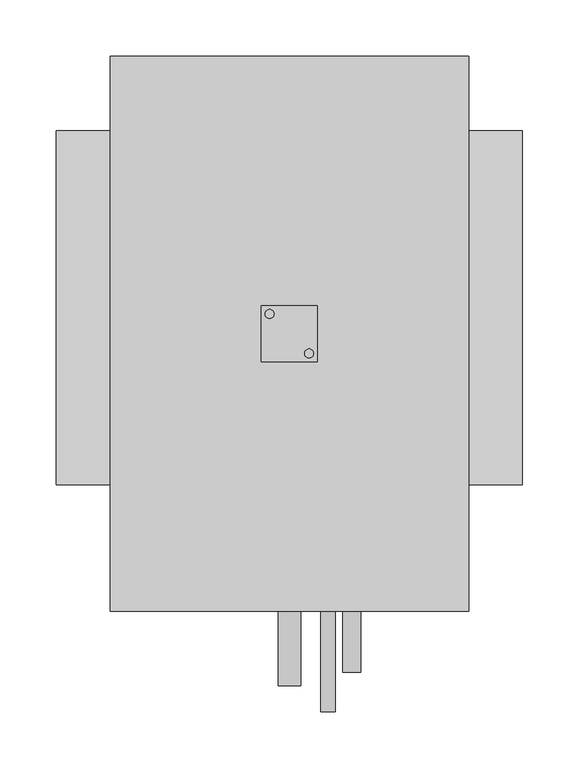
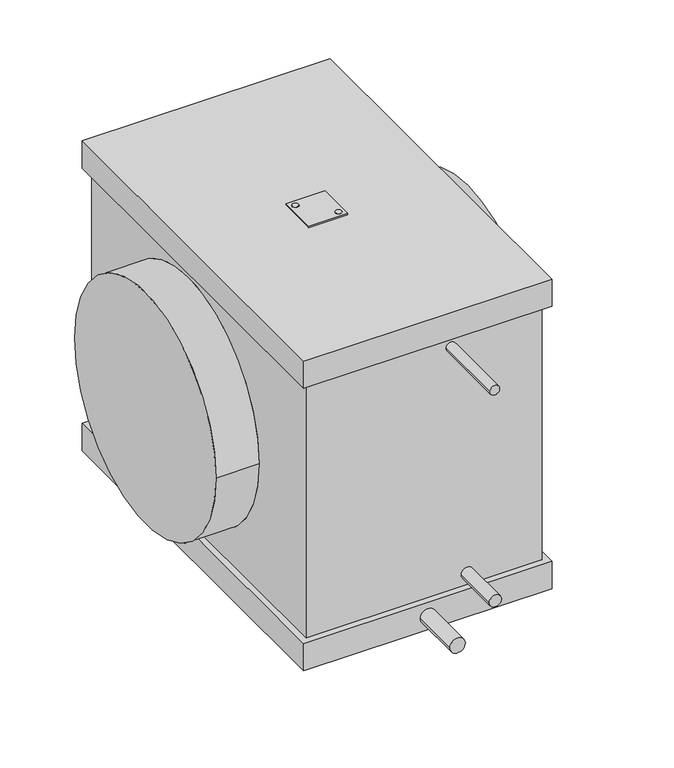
"""IFC4 building model written with IfcOpenShell, lengths in millimetres: proxy geometry, KORF_Охладитель_Фреоновый_Круглый_Левый_KFLO : KFLO 315/2."""

from ifc_helpers import new_model, si_unit, point, frame, frame_2d, origin, place, context, project, spatial, polyline, circle_curve, trimmed, segment, composite_curve, outline, extrude, source, transform, mapped, element, save
from ifc_brep_helpers import plane_surface, cylinder_surface, advanced_brep


def mechanical_equipment_fbcd34f2(model_context):
    return source(origin(), model_context, "Body", "SolidModel", [
        extrude(outline(composite_curve([segment(trimmed(circle_curve(frame_2d((189.9272934, -5.4254254)), 4.0), [point((185.9272934, -5.4254254))], [point((193.9272934, -5.4254254))], False, "CARTESIAN"), True, "CONTINUOUS"), segment(trimmed(circle_curve(frame_2d((189.9272934, -5.4254254)), 4.0), [point((193.9272934, -5.4254254))], [point((185.9272934, -5.4254254))], False, "CARTESIAN"), True, "CONTINUOUS")], self_intersect=False)), frame((0.0, 0.0, 210.5), z_axis=(0.0, 0.0, 1.0), x_axis=(1.0, 0.0, 0.0)), (0.0, 0.0, 1.0), 2.0),
        extrude(outline(composite_curve([segment(trimmed(circle_curve(frame_2d((225.0727066, -40.5745746)), 4.0), [point((229.0727066, -40.5745746))], [point((221.0727066, -40.5745746))], False, "CARTESIAN"), True, "CONTINUOUS"), segment(trimmed(circle_curve(frame_2d((225.0727066, -40.5745746)), 4.0), [point((221.0727066, -40.5745746))], [point((229.0727066, -40.5745746))], False, "CARTESIAN"), True, "CONTINUOUS")], self_intersect=False)), frame((0.0, 0.0, 210.5), z_axis=(0.0, 0.0, 1.0), x_axis=(1.0, 0.0, 0.0)), (0.0, 0.0, 1.0), 2.0),
        extrude(outline(polyline([(232.5, 2.0), (232.5, -48.0), (182.5, -48.0), (182.5, 2.0), (232.5, 2.0)]), holes=[composite_curve([segment(trimmed(circle_curve(frame_2d((189.9272934, -5.4254254)), 4.0), [point((185.9272934, -5.4254254))], [point((193.9272934, -5.4254254))], True, "CARTESIAN"), True, "CONTINUOUS"), segment(trimmed(circle_curve(frame_2d((189.9272934, -5.4254254)), 4.0), [point((193.9272934, -5.4254254))], [point((185.9272934, -5.4254254))], True, "CARTESIAN"), True, "CONTINUOUS")], self_intersect=False), composite_curve([segment(trimmed(circle_curve(frame_2d((225.0727066, -40.5745746)), 4.0), [point((229.0727066, -40.5745746))], [point((221.0727066, -40.5745746))], True, "CARTESIAN"), True, "CONTINUOUS"), segment(trimmed(circle_curve(frame_2d((225.0727066, -40.5745746)), 4.0), [point((221.0727066, -40.5745746))], [point((229.0727066, -40.5745746))], True, "CARTESIAN"), True, "CONTINUOUS")], self_intersect=False)]), frame((0.0, 0.0, 210.5), z_axis=(0.0, 0.0, 1.0), x_axis=(1.0, 0.0, 0.0)), (0.0, 0.0, 1.0), 2.0),
        advanced_brep(
        [(415.0, -157.5, 0.0), (415.0, 157.5, 0.0), (0.0, -157.5, 0.0), (0.0, 157.5, 0.0), (359.5, -157.5, 0.0), (359.5, 157.5, 0.0), (55.5, 157.5, 0.0), (55.5, -157.5, 0.0), (359.5, -261.5, -173.5), (359.5, 215.5, -173.5), (359.5, 215.5, 173.5), (359.5, -261.5, 173.5), (55.5, 215.5, -173.5), (55.5, -261.5, -173.5), (55.5, -261.5, 173.5), (55.5, 215.5, 173.5), (358.5, -261.5, -173.5), (358.5, -261.5, 173.5), (56.5, -261.5, 173.5), (56.5, -261.5, -173.5), (367.0, 224.0, -210.5), (367.0, -270.0, -210.5), (48.0, -270.0, -210.5), (48.0, 224.0, -210.5), (358.5, 215.5, -173.5), (56.5, 215.5, -173.5), (56.5, 215.5, 173.5), (358.5, 215.5, 173.5), (367.0, -270.0, 210.5), (367.0, 224.0, 210.5), (48.0, 224.0, 210.5), (48.0, -270.0, 210.5), (367.0, 224.0, -173.5), (367.0, -270.0, -173.5), (48.0, -270.0, -173.5), (48.0, 224.0, -173.5), (367.0, 224.0, 173.5), (367.0, -270.0, 173.5), (48.0, -270.0, 173.5), (48.0, 224.0, 173.5)],
        [
            (0, 1, circle_curve(frame((415.0, 0.0, 0.0), z_axis=(1.0, 0.0, 0.0), x_axis=(0.0, 1.0, 0.0)), 157.5)),
            (1, 0, circle_curve(frame((415.0, 0.0, 0.0), z_axis=(1.0, 0.0, 0.0), x_axis=(0.0, 1.0, 0.0)), 157.5)),
            (2, 3, circle_curve(frame((0.0, 0.0, 0.0), z_axis=(-1.0, 0.0, 0.0), x_axis=(0.0, 1.0, 0.0)), 157.5)),
            (3, 2, circle_curve(frame((0.0, 0.0, 0.0), z_axis=(-1.0, 0.0, 0.0), x_axis=(0.0, 1.0, 0.0)), 157.5)),
            (0, 4),
            (4, 5, circle_curve(frame((359.5, 0.0, 0.0), z_axis=(1.0, 0.0, 0.0), x_axis=(0.0, 1.0, 0.0)), 157.5)),
            (5, 1),
            (3, 6),
            (6, 7, circle_curve(frame((55.5, 0.0, 0.0), z_axis=(-1.0, 0.0, 0.0), x_axis=(0.0, 1.0, 0.0)), 157.5)),
            (7, 2),
            (5, 4, circle_curve(frame((359.5, 0.0, 0.0), z_axis=(1.0, 0.0, 0.0), x_axis=(0.0, 1.0, 0.0)), 157.5)),
            (7, 6, circle_curve(frame((55.5, 0.0, 0.0), z_axis=(-1.0, 0.0, 0.0), x_axis=(0.0, 1.0, 0.0)), 157.5)),
            (8, 9),
            (9, 10),
            (10, 11),
            (11, 8),
            (12, 13),
            (13, 14),
            (14, 15),
            (15, 12),
            (16, 8),
            (11, 17),
            (17, 18),
            (18, 14),
            (13, 19),
            (19, 16),
            (20, 21),
            (21, 22),
            (22, 23),
            (23, 20),
            (9, 24),
            (24, 25),
            (25, 12),
            (15, 26),
            (26, 27),
            (27, 10),
            (28, 29),
            (29, 30),
            (30, 31),
            (31, 28),
            (20, 32),
            (32, 33),
            (33, 21),
            (33, 34),
            (34, 22),
            (34, 35),
            (35, 23),
            (32, 35),
            (36, 29),
            (28, 37),
            (37, 36),
            (31, 38),
            (38, 37),
            (30, 39),
            (39, 38),
            (36, 39),
        ],
        [
            plane_surface(frame((415.0, 157.5, 0.0), z_axis=(1.0, 0.0, 0.0), x_axis=(0.0, 0.0, 1.0))),
            plane_surface(frame((0.0, 157.5, 0.0), z_axis=(-1.0, 0.0, 0.0), x_axis=(0.0, 0.0, -1.0))),
            cylinder_surface(frame((0.0, 0.0, 0.0), z_axis=(1.0, 0.0, 0.0), x_axis=(0.0, 1.0, 0.0)), 157.5),
            plane_surface(frame((359.5, -261.5, 210.5), z_axis=(1.0, 0.0, 0.0), x_axis=(0.0, 0.0, -1.0))),
            plane_surface(frame((55.5, -261.5, 210.5), z_axis=(-1.0, 0.0, 0.0), x_axis=(0.0, 0.0, 1.0))),
            plane_surface(frame((359.5, -261.5, 210.5), z_axis=(0.0, -1.0, 0.0), x_axis=(-1.0, 0.0, 0.0))),
            plane_surface(frame((359.5, -261.5, -210.5), z_axis=(0.0, 0.0, -1.0), x_axis=(-1.0, 0.0, 0.0))),
            plane_surface(frame((359.5, 215.5, -210.5), z_axis=(0.0, 1.0, 0.0), x_axis=(-1.0, 0.0, 0.0))),
            plane_surface(frame((359.5, 215.5, 210.5), z_axis=(0.0, 0.0, 1.0), x_axis=(-1.0, 0.0, 0.0))),
            plane_surface(frame((367.0, 224.0, -173.5), z_axis=(1.0, 0.0, 0.0), x_axis=(0.0, -1.0, 0.0))),
            plane_surface(frame((367.0, -270.0, -173.5), z_axis=(0.0, -1.0, 0.0), x_axis=(-1.0, 0.0, 0.0))),
            plane_surface(frame((48.0, -270.0, -173.5), z_axis=(-1.0, 0.0, 0.0), x_axis=(0.0, 1.0, 0.0))),
            plane_surface(frame((56.5, 215.5, -173.5), z_axis=(0.0, 0.0, 1.0), x_axis=(1.0, 0.0, 0.0))),
            plane_surface(frame((48.0, 224.0, -173.5), z_axis=(0.0, 1.0, 0.0), x_axis=(1.0, 0.0, 0.0))),
            plane_surface(frame((367.0, 224.0, 210.5), z_axis=(1.0, 0.0, 0.0), x_axis=(0.0, -1.0, 0.0))),
            plane_surface(frame((367.0, -270.0, 210.5), z_axis=(0.0, -1.0, 0.0), x_axis=(-1.0, 0.0, 0.0))),
            plane_surface(frame((48.0, -270.0, 210.5), z_axis=(-1.0, 0.0, 0.0), x_axis=(0.0, 1.0, 0.0))),
            plane_surface(frame((48.0, 224.0, 210.5), z_axis=(0.0, 1.0, 0.0), x_axis=(1.0, 0.0, 0.0))),
            plane_surface(frame((48.0, 224.0, 173.5), z_axis=(0.0, 0.0, -1.0), x_axis=(1.0, 0.0, 0.0))),
        ],
        [
            (0, [[1, 2]]),
            (1, [[3, 4]]),
            (2, [[-1, 5, 6, 7]]),
            (2, [[-4, 8, 9, 10]]),
            (2, [[-2, -7, 11, -5]]),
            (2, [[-3, -10, 12, -8]]),
            (3, [[13, 14, 15, 16], [-6, -11]]),
            (4, [[17, 18, 19, 20], [-9, -12]]),
            (5, [[21, -16, 22, 23, 24, -18, 25, 26]]),
            (6, [[27, 28, 29, 30]]),
            (7, [[31, 32, 33, -20, 34, 35, 36, -14]]),
            (8, [[37, 38, 39, 40]]),
            (9, [[41, 42, 43, -27]]),
            (10, [[-43, 44, 45, -28]]),
            (11, [[-45, 46, 47, -29]]),
            (12, [[-42, 48, -46, -44], [-13, -21, -26, -25, -17, -33, -32, -31]]),
            (13, [[-41, -30, -47, -48]]),
            (14, [[49, -37, 50, 51]]),
            (15, [[-50, -40, 52, 53]]),
            (16, [[-52, -39, 54, 55]]),
            (17, [[-49, 56, -54, -38]]),
            (18, [[-51, -53, -55, -56], [-15, -36, -35, -34, -19, -24, -23, -22]]),
        ],
    ),
        extrude(outline(composite_curve([segment(trimmed(circle_curve(frame_2d((-157.5, 263.0)), 7.94), [point((-157.5, 255.06))], [point((-157.5, 270.94))], False, "CARTESIAN"), True, "CONTINUOUS"), segment(trimmed(circle_curve(frame_2d((-157.5, 263.0)), 7.94), [point((-157.5, 270.94))], [point((-157.5, 255.06))], False, "CARTESIAN"), True, "CONTINUOUS")], self_intersect=False)), frame((0.0, -324.5, 0.0), z_axis=(0.0, 1.0, 0.0), x_axis=(0.0, 0.0, 1.0)), (0.0, 0.0, 1.0), 63.0),
        extrude(outline(composite_curve([segment(trimmed(circle_curve(frame_2d((157.5, 242.0)), 6.35), [point((157.5, 235.65))], [point((157.5, 248.35))], False, "CARTESIAN"), True, "CONTINUOUS"), segment(trimmed(circle_curve(frame_2d((157.5, 242.0)), 6.35), [point((157.5, 248.35))], [point((157.5, 235.65))], False, "CARTESIAN"), True, "CONTINUOUS")], self_intersect=False)), frame((0.0, -359.5, 0.0), z_axis=(0.0, 1.0, 0.0), x_axis=(0.0, 0.0, 1.0)), (0.0, 0.0, 1.0), 98.0),
        extrude(outline(composite_curve([segment(trimmed(circle_curve(frame_2d((-191.5, 207.5)), 10.0), [point((-191.5, 197.5))], [point((-191.5, 217.5))], False, "CARTESIAN"), True, "CONTINUOUS"), segment(trimmed(circle_curve(frame_2d((-191.5, 207.5)), 10.0), [point((-191.5, 217.5))], [point((-191.5, 197.5))], False, "CARTESIAN"), True, "CONTINUOUS")], self_intersect=False)), frame((0.0, -336.5, 0.0), z_axis=(0.0, 1.0, 0.0), x_axis=(0.0, 0.0, 1.0)), (0.0, 0.0, 1.0), 66.5),
    ])


if __name__ == "__main__":
    model = new_model("IFC4")
    model_context = context("Model", 3, world=origin())
    ifc_project = project(units=[si_unit("LENGTHUNIT", "METRE", prefix="MILLI")], contexts=[model_context])
    site = spatial("IfcSite", under=ifc_project)
    building = spatial("IfcBuilding", under=site)
    placement = place(None, origin())
    mechanical_equipment_shape = mechanical_equipment_fbcd34f2(model_context)
    element("IfcBuildingElementProxy", 1, Name="KORF_Охладитель_Фреоновый_Круглый_Левый_KFLO : KFLO 315/2", ObjectType="KORF_Охладитель_Фреоновый_Круглый_Левый_KFLO : KFLO 315/2", at=placement, inside=building, context=model_context, shape_type="MappedRepresentation", body=[
        mapped(mechanical_equipment_shape, transform((0.0, 0.0, 0.0), x_axis=(1.0, 0.0, 0.0), y_axis=(0.0, 1.0, 0.0), z_axis=(0.0, 0.0, 1.0))),
    ])
    save(model, "model.ifc")
